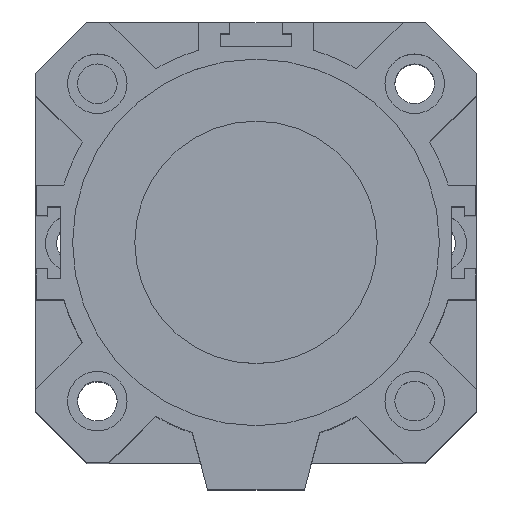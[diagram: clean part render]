
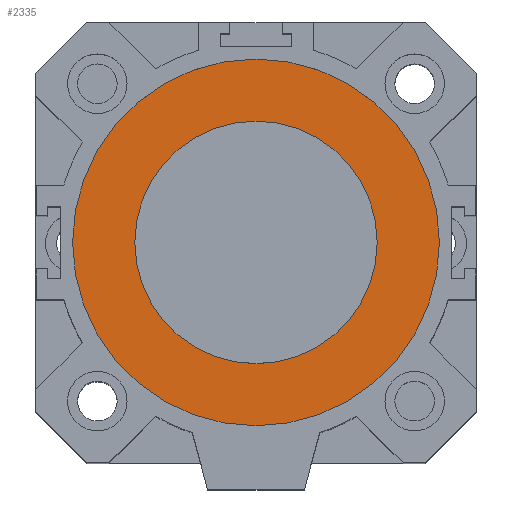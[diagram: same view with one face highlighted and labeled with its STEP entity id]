
A CAD part, top view. The second image highlights one B-rep face of the part: STEP entity #2335.
In plain terms, the highlighted planar face has unit normal (0, 0, 1).
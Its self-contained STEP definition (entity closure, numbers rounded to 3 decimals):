
#449=PLANE('',#2486);
#547=FACE_BOUND('',#766,.T.);
#548=FACE_BOUND('',#767,.T.);
#766=EDGE_LOOP('',(#1592));
#767=EDGE_LOOP('',(#1593));
#977=CIRCLE('',#2481,27.5);
#979=CIRCLE('',#2484,41.6);
#1065=VERTEX_POINT('',#3388);
#1067=VERTEX_POINT('',#3393);
#1287=EDGE_CURVE('',#1065,#1065,#977,.T.);
#1289=EDGE_CURVE('',#1067,#1067,#979,.T.);
#1592=ORIENTED_EDGE('',*,*,#1287,.F.);
#1593=ORIENTED_EDGE('',*,*,#1289,.F.);
#2335=ADVANCED_FACE('',(#547,#548),#449,.T.);
#2481=AXIS2_PLACEMENT_3D('',#3389,#2720,#2721);
#2484=AXIS2_PLACEMENT_3D('',#3394,#2726,#2727);
#2486=AXIS2_PLACEMENT_3D('',#3397,#2730,#2731);
#2720=DIRECTION('center_axis',(0.,0.,1.));
#2721=DIRECTION('ref_axis',(-1.,0.,0.));
#2726=DIRECTION('center_axis',(0.,0.,-1.));
#2727=DIRECTION('ref_axis',(-1.,0.,0.));
#2730=DIRECTION('center_axis',(0.,0.,1.));
#2731=DIRECTION('ref_axis',(1.,0.,0.));
#3388=CARTESIAN_POINT('',(27.5,0.,47.));
#3389=CARTESIAN_POINT('Origin',(0.,0.,47.));
#3393=CARTESIAN_POINT('',(41.6,0.,47.));
#3394=CARTESIAN_POINT('Origin',(0.,0.,47.));
#3397=CARTESIAN_POINT('Origin',(0.,0.,
47.));
